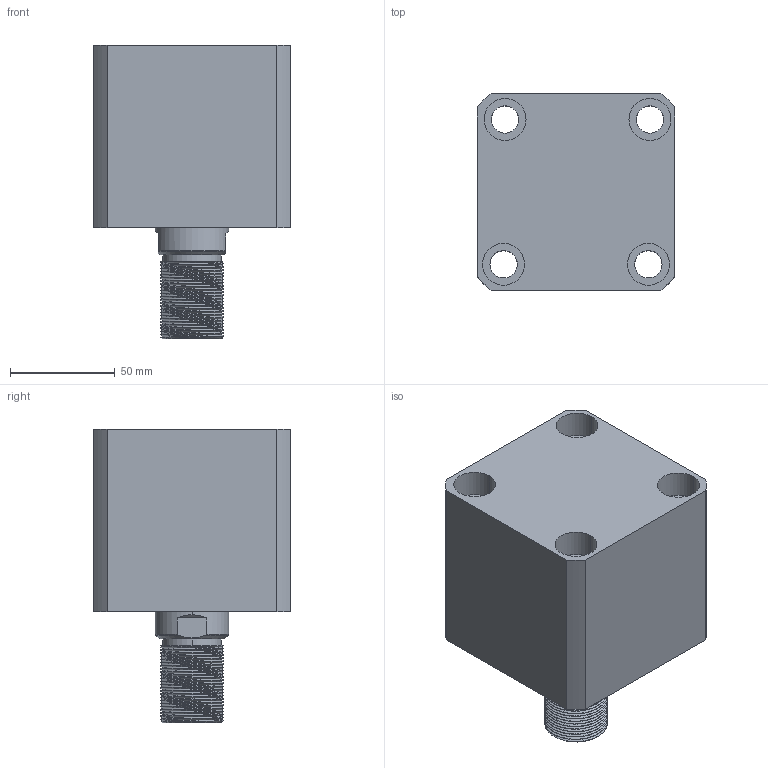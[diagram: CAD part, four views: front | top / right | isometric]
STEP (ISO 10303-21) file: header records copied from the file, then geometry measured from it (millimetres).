
FILE_DESCRIPTION (( 'STEP AP214' ), '1' );
FILE_NAME ('chtb-sdma63x20w_asm.STEP', '2018-05-18T09:15:21', ( 'Windows' ), ( 'Microsoft' ), 'SwSTEP 2.0', 'SolidWorks 2015', '' );
FILE_SCHEMA (( 'AUTOMOTIVE_DESIGN' ));
Length unit declared in the file: millimetre
Products named in the file (4): CHTB-SDMA63X20NBT; CHTB63X20WHSG; CHTB-63QG; chtb-sdma63x20w_asm
Assembly tree (3 placements, depth 2):
  chtb-sdma63x20w_asm
    CHTB-63QG
    CHTB63X20WHSG
    CHTB-SDMA63X20NBT
Bounding box: 94 x 94 x 140 mm (x, y, z)
Volume: 690533.7 mm3; surface area: 125156.9 mm2
Topology: 3 solids, 3 shells, 219 faces, 632 edges, 430 vertices
Faces by surface type: cylinder 156, plane 34, bspline 14, cone 9, torus 6
Entity records: 22297 total; most frequent: CARTESIAN_POINT 17024, ORIENTED_EDGE 1256, DIRECTION 878, EDGE_CURVE 628, VERTEX_POINT 430, AXIS2_PLACEMENT_3D 343, EDGE_LOOP 252, ADVANCED_FACE 219
